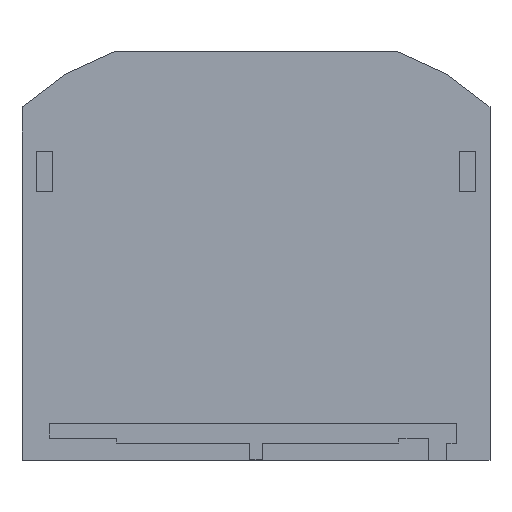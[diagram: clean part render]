
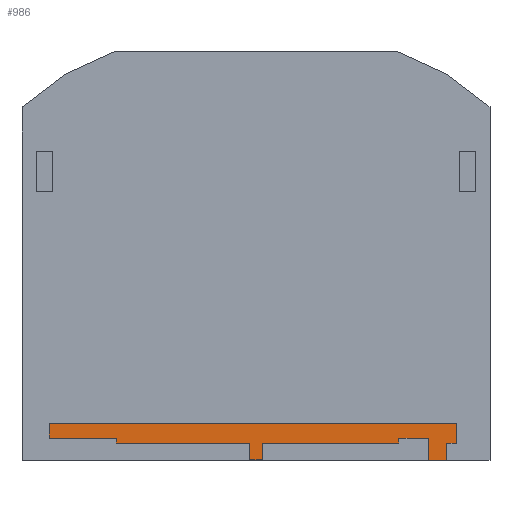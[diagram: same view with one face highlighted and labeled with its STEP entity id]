
A CAD part, top view. The second image highlights one B-rep face of the part: STEP entity #986.
In plain terms, the highlighted planar face has unit normal (0, 0, 1).
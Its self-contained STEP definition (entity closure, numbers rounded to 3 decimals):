
#7 = EDGE_CURVE ( 'NONE', #93, #94, #790, .T. ) ;
#8 = EDGE_CURVE ( 'NONE', #91, #139, #792, .T. ) ;
#10 = EDGE_CURVE ( 'NONE', #138, #92, #794, .T. ) ;
#12 = EDGE_CURVE ( 'NONE', #92, #93, #796, .T. ) ;
#15 = EDGE_CURVE ( 'NONE', #94, #95, #802, .T. ) ;
#17 = EDGE_CURVE ( 'NONE', #95, #96, #806, .T. ) ;
#19 = EDGE_CURVE ( 'NONE', #96, #83, #819, .T. ) ;
#21 = EDGE_CURVE ( 'NONE', #83, #120, #823, .T. ) ;
#23 = EDGE_CURVE ( 'NONE', #120, #121, #810, .T. ) ;
#25 = EDGE_CURVE ( 'NONE', #121, #122, #812, .T. ) ;
#27 = EDGE_CURVE ( 'NONE', #122, #123, #816, .T. ) ;
#35 = EDGE_CURVE ( 'NONE', #123, #124, #851, .T. ) ;
#37 = EDGE_CURVE ( 'NONE', #124, #85, #836, .T. ) ;
#39 = EDGE_CURVE ( 'NONE', #85, #86, #840, .T. ) ;
#41 = EDGE_CURVE ( 'NONE', #86, #91, #846, .T. ) ;
#83 = VERTEX_POINT ( 'NONE', #251 ) ;
#85 = VERTEX_POINT ( 'NONE', #248 ) ;
#86 = VERTEX_POINT ( 'NONE', #254 ) ;
#91 = VERTEX_POINT ( 'NONE', #257 ) ;
#92 = VERTEX_POINT ( 'NONE', #258 ) ;
#93 = VERTEX_POINT ( 'NONE', #259 ) ;
#94 = VERTEX_POINT ( 'NONE', #260 ) ;
#95 = VERTEX_POINT ( 'NONE', #261 ) ;
#96 = VERTEX_POINT ( 'NONE', #262 ) ;
#120 = VERTEX_POINT ( 'NONE', #286 ) ;
#121 = VERTEX_POINT ( 'NONE', #287 ) ;
#122 = VERTEX_POINT ( 'NONE', #288 ) ;
#123 = VERTEX_POINT ( 'NONE', #289 ) ;
#124 = VERTEX_POINT ( 'NONE', #290 ) ;
#138 = VERTEX_POINT ( 'NONE', #304 ) ;
#139 = VERTEX_POINT ( 'NONE', #305 ) ;
#155 = CARTESIAN_POINT ( 'NONE',  ( 32.5, 5.4, -15.3 ) ) ;
#157 = CARTESIAN_POINT ( 'NONE',  ( 28., 2.6, -15.3 ) ) ;
#158 = DIRECTION ( 'NONE',  ( 0., 1., 0. ) ) ;
#159 = CARTESIAN_POINT ( 'NONE',  ( 31., 5.4, -15.3 ) ) ;
#160 = DIRECTION ( 'NONE',  ( 0., -1., 0. ) ) ;
#163 = CARTESIAN_POINT ( 'NONE',  ( 32.5, 5.4, -15.3 ) ) ;
#164 = DIRECTION ( 'NONE',  ( 0., 1., 0. ) ) ;
#168 = DIRECTION ( 'NONE',  ( 1., 0., 0. ) ) ;
#171 = CARTESIAN_POINT ( 'NONE',  ( 32.5, 8.6, -15.3 ) ) ;
#173 = CARTESIAN_POINT ( 'NONE',  ( -33.6, 6.2, -15.3 ) ) ;
#174 = DIRECTION ( 'NONE',  ( -1., 0., 0. ) ) ;
#177 = CARTESIAN_POINT ( 'NONE',  ( -1., 5.4, -15.3 ) ) ;
#178 = DIRECTION ( 'NONE',  ( 0., -1., 0. ) ) ;
#181 = CARTESIAN_POINT ( 'NONE',  ( -22.7, 6.2, -15.3 ) ) ;
#182 = DIRECTION ( 'NONE',  ( 1., 0., 0. ) ) ;
#185 = CARTESIAN_POINT ( 'NONE',  ( -22.7, 5.4, -15.3 ) ) ;
#186 = DIRECTION ( 'NONE',  ( 0., -1., 0. ) ) ;
#189 = CARTESIAN_POINT ( 'NONE',  ( -1., 2.7, -15.3 ) ) ;
#190 = DIRECTION ( 'NONE',  ( 1., 0., 0. ) ) ;
#193 = CARTESIAN_POINT ( 'NONE',  ( 1., 2.7, -15.3 ) ) ;
#194 = DIRECTION ( 'NONE',  ( 0., -1., 0. ) ) ;
#198 = DIRECTION ( 'NONE',  ( 1., 0., 0. ) ) ;
#207 = CARTESIAN_POINT ( 'NONE',  ( 23.2, 5.4, -15.3 ) ) ;
#213 = CARTESIAN_POINT ( 'NONE',  ( 1., 5.4, -15.3 ) ) ;
#214 = DIRECTION ( 'NONE',  ( 0., 1., 0. ) ) ;
#217 = CARTESIAN_POINT ( 'NONE',  ( 23.2, 6.2, -15.3 ) ) ;
#218 = DIRECTION ( 'NONE',  ( 1., 0., 0. ) ) ;
#221 = CARTESIAN_POINT ( 'NONE',  ( 28., 6.2, -15.3 ) ) ;
#222 = DIRECTION ( 'NONE',  ( 0., 1., 0. ) ) ;
#226 = DIRECTION ( 'NONE',  ( 1., 0., 0. ) ) ;
#248 = CARTESIAN_POINT ( 'NONE',  ( 23.2, 5.4, -15.3 ) ) ;
#251 = CARTESIAN_POINT ( 'NONE',  ( -22.7, 6.2, -15.3 ) ) ;
#254 = CARTESIAN_POINT ( 'NONE',  ( 23.2, 6.2, -15.3 ) ) ;
#257 = CARTESIAN_POINT ( 'NONE',  ( 28., 6.2, -15.3 ) ) ;
#258 = CARTESIAN_POINT ( 'NONE',  ( 31., 5.4, -15.3 ) ) ;
#259 = CARTESIAN_POINT ( 'NONE',  ( 32.5, 5.4, -15.3 ) ) ;
#260 = CARTESIAN_POINT ( 'NONE',  ( 32.5, 8.6, -15.3 ) ) ;
#261 = CARTESIAN_POINT ( 'NONE',  ( -33.6, 8.6, -15.3 ) ) ;
#262 = CARTESIAN_POINT ( 'NONE',  ( -33.6, 6.2, -15.3 ) ) ;
#286 = CARTESIAN_POINT ( 'NONE',  ( -22.7, 5.4, -15.3 ) ) ;
#287 = CARTESIAN_POINT ( 'NONE',  ( -1., 5.4, -15.3 ) ) ;
#288 = CARTESIAN_POINT ( 'NONE',  ( -1., 2.7, -15.3 ) ) ;
#289 = CARTESIAN_POINT ( 'NONE',  ( 1., 2.7, -15.3 ) ) ;
#290 = CARTESIAN_POINT ( 'NONE',  ( 1., 5.4, -15.3 ) ) ;
#304 = CARTESIAN_POINT ( 'NONE',  ( 31., 2.6, -15.3 ) ) ;
#305 = CARTESIAN_POINT ( 'NONE',  ( 28., 2.6, -15.3 ) ) ;
#341 = CARTESIAN_POINT ( 'NONE',  ( 31., 2.6, -15.3 ) ) ;
#342 = DIRECTION ( 'NONE',  ( 1., 0., 0. ) ) ;
#473 = CARTESIAN_POINT ( 'NONE',  ( 28., 6.2, -15.3 ) ) ;
#478 = PLANE ( 'NONE',  #932 ) ;
#483 = DIRECTION ( 'NONE',  ( 0., 0., 1. ) ) ;
#484 = DIRECTION ( 'NONE',  ( 1., 0., 0. ) ) ;
#590 = EDGE_LOOP ( 'NONE', ( #764, #765, #766, #767, #768, #769, #770, #771, #772, #773, #774, #775, #776, #777, #778, #779 ) ) ;
#764 = ORIENTED_EDGE ( 'NONE', *, *, #8, .T. ) ;
#765 = ORIENTED_EDGE ( 'NONE', *, *, #882, .T. ) ;
#766 = ORIENTED_EDGE ( 'NONE', *, *, #10, .T. ) ;
#767 = ORIENTED_EDGE ( 'NONE', *, *, #12, .T. ) ;
#768 = ORIENTED_EDGE ( 'NONE', *, *, #7, .T. ) ;
#769 = ORIENTED_EDGE ( 'NONE', *, *, #15, .T. ) ;
#770 = ORIENTED_EDGE ( 'NONE', *, *, #17, .T. ) ;
#771 = ORIENTED_EDGE ( 'NONE', *, *, #19, .T. ) ;
#772 = ORIENTED_EDGE ( 'NONE', *, *, #21, .T. ) ;
#773 = ORIENTED_EDGE ( 'NONE', *, *, #23, .T. ) ;
#774 = ORIENTED_EDGE ( 'NONE', *, *, #25, .T. ) ;
#775 = ORIENTED_EDGE ( 'NONE', *, *, #27, .T. ) ;
#776 = ORIENTED_EDGE ( 'NONE', *, *, #35, .T. ) ;
#777 = ORIENTED_EDGE ( 'NONE', *, *, #37, .T. ) ;
#778 = ORIENTED_EDGE ( 'NONE', *, *, #39, .T. ) ;
#779 = ORIENTED_EDGE ( 'NONE', *, *, #41, .T. ) ;
#790 = LINE ( 'NONE', #155, #795 ) ;
#792 = LINE ( 'NONE', #157, #797 ) ;
#794 = LINE ( 'NONE', #159, #801 ) ;
#795 = VECTOR ( 'NONE', #158, 1000. ) ;
#796 = LINE ( 'NONE', #163, #805 ) ;
#797 = VECTOR ( 'NONE', #160, 1000. ) ;
#801 = VECTOR ( 'NONE', #164, 1000. ) ;
#802 = LINE ( 'NONE', #171, #811 ) ;
#805 = VECTOR ( 'NONE', #168, 1000. ) ;
#806 = LINE ( 'NONE', #173, #815 ) ;
#810 = LINE ( 'NONE', #177, #827 ) ;
#811 = VECTOR ( 'NONE', #174, 1000. ) ;
#812 = LINE ( 'NONE', #189, #831 ) ;
#815 = VECTOR ( 'NONE', #178, 1000. ) ;
#816 = LINE ( 'NONE', #193, #835 ) ;
#819 = LINE ( 'NONE', #181, #820 ) ;
#820 = VECTOR ( 'NONE', #182, 1000. ) ;
#823 = LINE ( 'NONE', #185, #824 ) ;
#824 = VECTOR ( 'NONE', #186, 1000. ) ;
#827 = VECTOR ( 'NONE', #190, 1000. ) ;
#831 = VECTOR ( 'NONE', #194, 1000. ) ;
#835 = VECTOR ( 'NONE', #198, 1000. ) ;
#836 = LINE ( 'NONE', #207, #855 ) ;
#840 = LINE ( 'NONE', #217, #859 ) ;
#846 = LINE ( 'NONE', #221, #863 ) ;
#851 = LINE ( 'NONE', #213, #852 ) ;
#852 = VECTOR ( 'NONE', #214, 1000. ) ;
#855 = VECTOR ( 'NONE', #218, 1000. ) ;
#859 = VECTOR ( 'NONE', #222, 1000. ) ;
#863 = VECTOR ( 'NONE', #226, 1000. ) ;
#882 = EDGE_CURVE ( 'NONE', #139, #138, #1053, .T. ) ;
#932 = AXIS2_PLACEMENT_3D ( 'NONE', #473, #483, #484 ) ;
#986 = ADVANCED_FACE ( 'NONE', ( #1133 ), #478, .T. ) ;
#1053 = LINE ( 'NONE', #341, #1054 ) ;
#1054 = VECTOR ( 'NONE', #342, 1000. ) ;
#1133 = FACE_OUTER_BOUND ( 'NONE', #590, .T. ) ;
